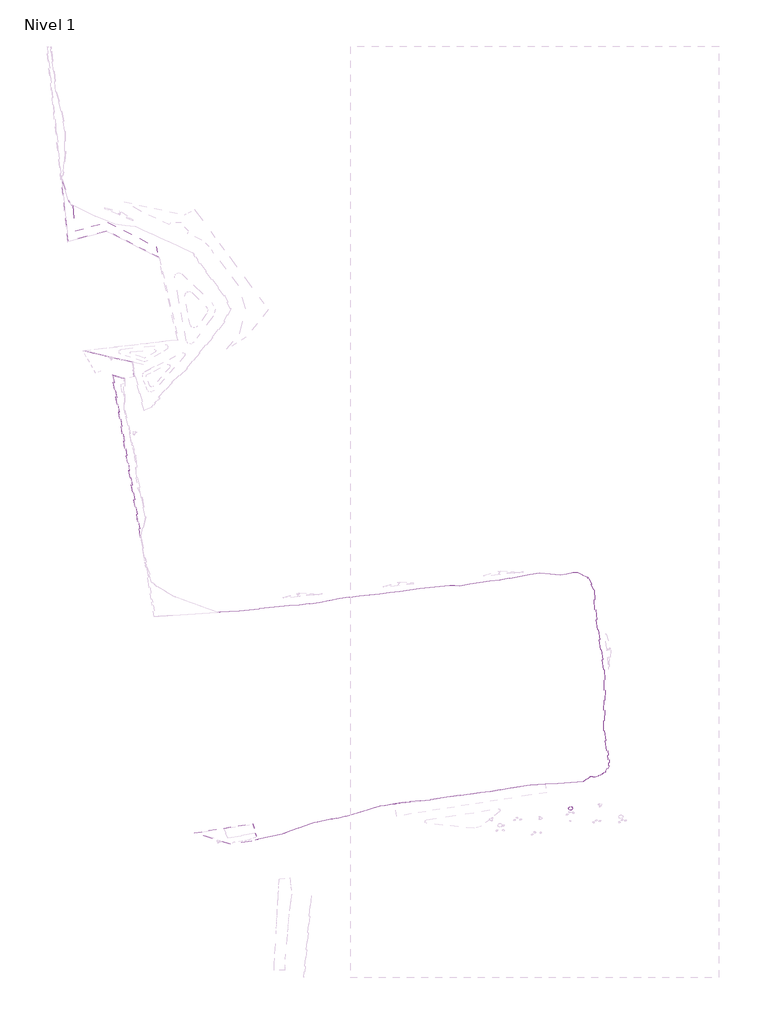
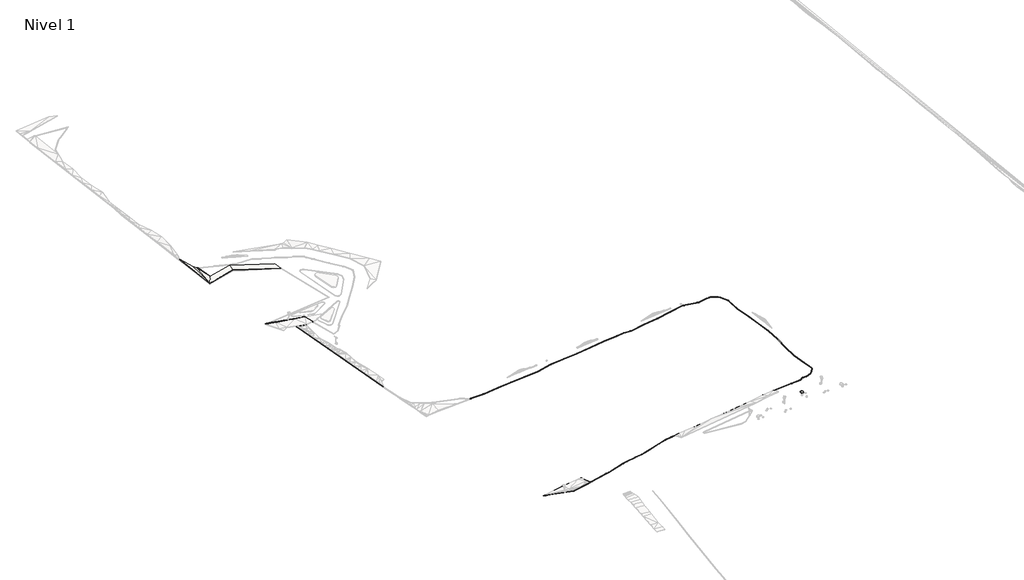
# One storey, part 4 of 45: 6 slabs.
"""IFC4 building model written with IfcOpenShell, lengths in millimetres."""

from ifc_helpers import new_model, si_unit, point, frame, frame_2d, origin, place, context, project, spatial, circle_curve, trimmed, segment, composite_curve, outline, extrude, faceted_brep, element, save
from ifc_brep_helpers import plane_surface, spline_surface, advanced_brep

model = new_model("IFC4")

# Units and contexts
model_context = context("Model", 3, world=origin())
ifc_project = project(units=[si_unit("LENGTHUNIT", "METRE", prefix="MILLI")], contexts=[model_context])

# Site, building, storey
site = spatial("IfcSite", under=ifc_project)
building = spatial("IfcBuilding", under=site)
storey = spatial("IfcBuildingStorey", under=building, Name="Nivel 1", Elevation=0.0)

# Slabs
placement = place(None, origin())
element("IfcSlab", 1, ObjectType="Tierra de Chacra (50cm)", at=placement, inside=storey, context=model_context, shape_type="Brep", body=[
    faceted_brep([(-246888.5866031, -301346.6271239, 2500.0), (-246888.5866031, -301346.6271239, 3000.0), (-272592.9362522, -288335.6224088, 3000.0), (-272592.9362522, -288335.6224088, 2500.0), (-291569.8850436, -293416.2243786, 3000.0), (-291569.8850436, -293416.2243786, 2500.0), (-294891.1329312, -262791.0925905, 3000.0), (-294891.1329312, -262791.0925905, 2500.0), (-291491.3566625, -273118.4389996, 2770.69561), (-291491.3566625, -273118.4389996, 2270.69561), (-290159.2414777, -275283.0651658, 2756.4355659), (-290159.2414777, -275283.0651658, 2256.4355659), (-289423.7156436, -275642.0907, 2880.0), (-289423.7156436, -275642.0907, 2380.0), (-288069.300455, -288131.1144209, 3500.0), (-288069.300455, -288131.1144209, 3000.0), (-272128.4213788, -283863.3439535, 3500.0), (-272128.4213788, -283863.3439535, 3000.0), (-248131.330042, -296010.1701835, 3500.0), (-248131.330042, -296010.1701835, 3000.0)], [[[0, 1, 2, 3]], [[3, 2, 4, 5]], [[5, 4, 6, 7]], [[7, 6, 8, 9]], [[9, 8, 10, 11]], [[11, 10, 12, 13]], [[13, 12, 14, 15]], [[15, 14, 16, 17]], [[17, 16, 18, 19]], [[19, 18, 1, 0]], [[18, 16, 2, 1]], [[19, 0, 3, 17]], [[8, 6, 4]], [[10, 8, 4]], [[9, 5, 7]], [[11, 5, 9]], [[14, 12, 10]], [[15, 11, 13]], [[14, 10, 4]], [[15, 5, 11]], [[16, 14, 4, 2]], [[17, 3, 5, 15]]]),
])
element("IfcSlab", 2, ObjectType="Tierra de Chacra (50cm)", at=placement, inside=storey, context=model_context, shape_type="SweptSolid", body=[
    extrude(outline(composite_curve([segment(trimmed(circle_curve(frame_2d((-42885.9275972, -574106.8982234)), 950.0), [point((-43835.9275972, -574106.8982234))], [point((-41935.9275972, -574106.8982234))], False, "CARTESIAN"), True, "CONTINUOUS"), segment(trimmed(circle_curve(frame_2d((-42885.9275972, -574106.8982234)), 950.0), [point((-41935.9275972, -574106.8982234))], [point((-43835.9275972, -574106.8982234))], False, "CARTESIAN"), True, "CONTINUOUS")], self_intersect=False)), frame((0.0, 0.0, 5900.0), z_axis=(0.0, 0.0, 1.0), x_axis=(1.0, 0.0, 0.0)), (0.0, 0.0, 1.0), 500.0),
])
element("IfcSlab", 3, ObjectType="Alcorque", at=placement, inside=storey, context=model_context, shape_type="SweptSolid", body=[
    extrude(outline(composite_curve([segment(trimmed(circle_curve(frame_2d((-42885.9275972, -574106.8982234)), 1050.0), [point((-41835.9275972, -574106.8982234))], [point((-43935.9275972, -574106.8982234))], False, "CARTESIAN"), True, "CONTINUOUS"), segment(trimmed(circle_curve(frame_2d((-42885.9275972, -574106.8982234)), 1050.0), [point((-43935.9275972, -574106.8982234))], [point((-41835.9275972, -574106.8982234))], False, "CARTESIAN"), True, "CONTINUOUS")], self_intersect=False), holes=[composite_curve([segment(trimmed(circle_curve(frame_2d((-42885.9275972, -574106.8982234)), 950.0), [point((-43835.9275972, -574106.8982234))], [point((-41935.9275972, -574106.8982234))], True, "CARTESIAN"), True, "CONTINUOUS"), segment(trimmed(circle_curve(frame_2d((-42885.9275972, -574106.8982234)), 950.0), [point((-41935.9275972, -574106.8982234))], [point((-43835.9275972, -574106.8982234))], True, "CARTESIAN"), True, "CONTINUOUS")], self_intersect=False)]), frame((0.0, 0.0, 6300.0), z_axis=(0.0, 0.0, 1.0), x_axis=(1.0, 0.0, 0.0)), (0.0, 0.0, 1.0), 150.0),
])
element("IfcSlab", 4, ObjectType="Bordillo", at=placement, inside=storey, context=model_context, shape_type="AdvancedBrep", body=[
    advanced_brep(
    [(-260008.9471493, -353050.100909, 3100.0), (-260008.9471493, -353050.100909, 3500.0), (-258771.3549494, -360447.2872126, 4078.4), (-258771.3549494, -360447.2872126, 3678.4), (-258919.2986758, -360472.0390568, 4078.4), (-258919.2986758, -360472.0390568, 3678.4), (-260140.3450948, -353173.7481946, 3500.0), (-260140.3450948, -353173.7481946, 3100.0), (-264138.4515968, -352252.2382321, 3500.0), (-264138.4515968, -352252.2382321, 3100.0), (-265363.9430832, -352226.3334649, 3500.0), (-265363.9430832, -352226.3334649, 3100.0), (-267410.290976, -351754.6776751, 3500.0), (-267410.290976, -351754.6776751, 3100.0), (-268523.483267, -351241.547204, 3500.0), (-268523.483267, -351241.547204, 3100.0), (-269748.9749714, -351215.6424778, 3500.0), (-269748.9749714, -351215.6424778, 3100.0), (-270996.2728768, -350928.1570534, 3500.0), (-270996.2728768, -350928.1570534, 3100.0), (-272109.6624657, -350414.9809641, 3500.0), (-272109.6624657, -350414.9809641, 3100.0), (-284078.9798276, -347656.2137356, 3320.0), (-284078.9798276, -347656.2137356, 2920.0), (-284369.7433372, -347435.263894, 3320.0), (-284369.7433372, -347435.263894, 2920.0), (-272075.972764, -350268.8132384, 3500.0), (-270906.4336443, -350538.3763303, 3500.0), (-269659.1357445, -350825.8617787, 3500.0), (-268489.7935653, -351095.3794784, 3500.0), (-267320.451775, -351364.8970884, 3500.0), (-265274.1038761, -351836.5528521, 3500.0), (-264104.761895, -352106.0705061, 3500.0), (-264104.761895, -352106.0705061, 3100.0), (-265274.1038761, -351836.5528521, 3100.0), (-267320.451775, -351364.8970884, 3100.0), (-268489.7935653, -351095.3794784, 3100.0), (-269659.1357445, -350825.8617787, 3100.0), (-270906.4336443, -350538.3763303, 3100.0), (-272075.972764, -350268.8132384, 3100.0)],
    [
        (0, 1),
        (1, 2),
        (2, 3),
        (3, 0),
        (2, 4),
        (4, 5),
        (5, 3),
        (4, 6),
        (6, 7),
        (7, 5),
        (6, 8),
        (8, 9),
        (9, 7),
        (8, 10),
        (10, 11),
        (11, 9),
        (10, 12),
        (12, 13),
        (13, 11),
        (12, 14),
        (14, 15),
        (15, 13),
        (14, 16),
        (16, 17),
        (17, 15),
        (16, 18),
        (18, 19),
        (19, 17),
        (18, 20),
        (20, 21),
        (21, 19),
        (20, 22),
        (22, 23),
        (23, 21),
        (22, 24),
        (24, 25),
        (25, 23),
        (24, 26),
        (26, 27),
        (27, 28),
        (28, 29),
        (29, 30),
        (30, 31),
        (31, 32),
        (32, 1),
        (0, 33),
        (33, 34),
        (34, 35),
        (35, 36),
        (36, 37),
        (37, 38),
        (38, 39),
        (39, 25),
        (20, 26),
        (39, 21),
        (18, 27),
        (2, 6),
        (1, 6),
        (12, 30),
        (29, 14),
        (38, 19),
        (7, 3),
        (7, 0),
        (15, 36),
        (35, 13),
        (32, 8),
        (9, 33),
        (10, 31),
        (34, 11),
        (28, 16),
        (17, 37),
    ],
    [
        plane_surface(frame((-260008.9471493, -353050.100909, 4600.0), z_axis=(0.9862915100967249, 0.1650122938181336, 0.0), x_axis=(0.0, 0.0, 1.0))),
        plane_surface(frame((-258771.3549494, -360447.2872126, 4600.0), z_axis=(0.1650122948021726, -0.9862915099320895, 0.0), x_axis=(0.0, 0.0, 1.0))),
        plane_surface(frame((-258919.2986758, -360472.0390568, 4600.0), z_axis=(-0.9862915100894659, -0.16501229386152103, 0.0), x_axis=(0.0, 0.0, 1.0))),
        plane_surface(frame((-260140.3450948, -353173.7481946, 4600.0), z_axis=(-0.2245980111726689, -0.9744515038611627, 0.0), x_axis=(0.0, 0.0, 1.0))),
        plane_surface(frame((-264138.4515968, -352252.2382321, 4600.0), z_axis=(-0.021133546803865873, -0.9997766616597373, 0.0), x_axis=(0.0, 0.0, 1.0))),
        plane_surface(frame((-265363.9430832, -352226.3334649, 4600.0), z_axis=(-0.22459802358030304, -0.9744515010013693, 0.0), x_axis=(0.0, 0.0, 1.0))),
        plane_surface(frame((-267410.290976, -351754.6776751, 4600.0), z_axis=(-0.4186205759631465, -0.9081612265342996, 0.0), x_axis=(0.0, 0.0, 1.0))),
        plane_surface(frame((-268523.483267, -351241.547204, 4600.0), z_axis=(-0.02113350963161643, -0.9997766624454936, 0.0), x_axis=(0.0, 0.0, 1.0))),
        plane_surface(frame((-269748.9749714, -351215.6424778, 4600.0), z_axis=(-0.22459799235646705, -0.9744515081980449, 0.0), x_axis=(0.0, 0.0, 1.0))),
        plane_surface(frame((-270996.2728768, -350928.1570534, 4600.0), z_axis=(-0.4185900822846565, -0.908175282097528, 0.0), x_axis=(0.0, 0.0, 1.0))),
        plane_surface(frame((-272109.6624657, -350414.9809641, 4600.0), z_axis=(-0.224598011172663, -0.9744515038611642, 0.0), x_axis=(0.0, 0.0, 1.0))),
        plane_surface(frame((-284078.9798276, -347656.2137356, 4600.0), z_axis=(-0.6050304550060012, -0.7962023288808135, 0.0), x_axis=(0.0, 0.0, 1.0))),
        plane_surface(frame((-284369.7433372, -347435.263894, 4600.0), z_axis=(0.22459801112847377, 0.9744515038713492, 0.0), x_axis=(0.0, 0.0, 1.0))),
        spline_surface(1, 1, [[(-284078.9798276, -347656.2137356, 3320.0), (-284369.7433372, -347435.263894, 3320.0)], [(-272109.6624657, -350414.9809641, 3500.0), (-272075.972764, -350268.8132384, 3500.0)]], [2, 2], [2, 2], [0.0, 1.0], [0.0, 1.0]),
        spline_surface(1, 1, [[(-284078.9798276, -347656.2137356, 2920.0), (-272109.6624657, -350414.9809641, 3100.0)], [(-284369.7433372, -347435.263894, 2920.0), (-272075.972764, -350268.8132384, 3100.0)]], [2, 2], [2, 2], [0.0, 1.0], [0.0, 1.0]),
        plane_surface(frame((-271522.0854377, -350537.5818965, 3500.0), z_axis=(0.0, 0.0, 1.0), x_axis=(0.908175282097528, -0.4185900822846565, 0.0))),
        plane_surface(frame((-259276.9995733, -358031.0248213, 3885.6), z_axis=(-0.012858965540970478, 0.07685905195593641, 0.9969590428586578), x_axis=(0.164510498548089, -0.9832922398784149, 0.07792731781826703))),
        plane_surface(frame((-259640.2157312, -355557.0454387, 3692.8), z_axis=(-0.06329942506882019, 0.06726726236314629, 0.9957250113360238), x_axis=(0.1844051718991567, -0.9797573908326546, 0.07791140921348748))),
        plane_surface(frame((-267936.0048958, -351364.1253615, 3500.0), z_axis=(0.0, 0.0, 1.0), x_axis=(0.9081612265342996, -0.4186205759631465, 0.0))),
        plane_surface(frame((-271522.0854377, -350537.5818965, 3100.0), z_axis=(0.0, 0.0, -1.0), x_axis=(0.908175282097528, -0.4185900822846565, 0.0))),
        plane_surface(frame((-259276.9995733, -358031.0248213, 3485.6), z_axis=(0.012858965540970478, -0.07685905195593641, -0.9969590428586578), x_axis=(0.164510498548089, -0.9832922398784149, 0.07792731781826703))),
        plane_surface(frame((-259640.2157312, -355557.0454387, 3292.8), z_axis=(0.06329942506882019, -0.06726726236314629, -0.9957250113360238), x_axis=(0.1844051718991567, -0.9797573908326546, 0.07791140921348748))),
        plane_surface(frame((-267936.0048958, -351364.1253615, 3100.0), z_axis=(0.0, 0.0, -1.0), x_axis=(0.9081612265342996, -0.4186205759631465, 0.0))),
        plane_surface(frame((-262098.126434, -352645.5394605, 3500.0), z_axis=(0.0, 0.0, 1.0), x_axis=(0.9744515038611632, -0.22459801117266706, 0.0))),
        plane_surface(frame((-262098.126434, -352645.5394605, 3100.0), z_axis=(0.0, 0.0, -1.0), x_axis=(0.9744515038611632, -0.22459801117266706, 0.0))),
        plane_surface(frame((-266342.1974276, -351795.6152701, 3500.0), z_axis=(0.0, 0.0, 1.0), x_axis=(0.9744515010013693, -0.22459802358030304, 0.0))),
        plane_surface(frame((-266342.1974276, -351795.6152701, 3100.0), z_axis=(0.0, 0.0, -1.0), x_axis=(0.9744515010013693, -0.22459802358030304, 0.0))),
        plane_surface(frame((-264720.3151128, -352105.2987638, 3500.0), z_axis=(0.0, 0.0, 1.0), x_axis=(0.9997766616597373, -0.021133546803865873, 0.0))),
        plane_surface(frame((-264720.3151128, -352105.2987638, 3100.0), z_axis=(0.0, 0.0, -1.0), x_axis=(0.9997766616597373, -0.021133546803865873, 0.0))),
        plane_surface(frame((-269105.3468871, -351094.6077347, 3500.0), z_axis=(0.0, 0.0, 1.0000000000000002), x_axis=(0.9997766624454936, -0.02113350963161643, 0.0))),
        plane_surface(frame((-270327.7043093, -350877.00941, 3500.0), z_axis=(0.0, 0.0, 1.0), x_axis=(0.9744515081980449, -0.22459799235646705, 0.0))),
        plane_surface(frame((-269105.3468871, -351094.6077347, 3100.0), z_axis=(0.0, 0.0, -1.0000000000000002), x_axis=(0.9997766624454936, -0.02113350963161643, 0.0))),
        plane_surface(frame((-270327.7043093, -350877.00941, 3100.0), z_axis=(0.0, 0.0, -1.0), x_axis=(0.9744515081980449, -0.22459799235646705, 0.0))),
    ],
    [
        (0, [[1, 2, 3, 4]]),
        (1, [[-3, 5, 6, 7]]),
        (2, [[-6, 8, 9, 10]]),
        (3, [[-9, 11, 12, 13]]),
        (4, [[-12, 14, 15, 16]]),
        (5, [[-15, 17, 18, 19]]),
        (6, [[-18, 20, 21, 22]]),
        (7, [[-21, 23, 24, 25]]),
        (8, [[-24, 26, 27, 28]]),
        (9, [[-27, 29, 30, 31]]),
        (10, [[-30, 32, 33, 34]]),
        (11, [[-33, 35, 36, 37]]),
        (12, [[-36, 38, 39, 40, 41, 42, 43, 44, 45, -1, 46, 47, 48, 49, 50, 51, 52, 53]]),
        (13, [[-35, -32, 54, -38]]),
        (14, [[-53, 55, -34, -37]]),
        (15, [[-29, 56, -39, -54]]),
        (16, [[-8, -5, 57]]),
        (17, [[-57, -2, 58]]),
        (18, [[-20, 59, -42, 60]]),
        (19, [[-55, -52, 61, -31]]),
        (20, [[62, -7, -10]]),
        (21, [[63, -4, -62]]),
        (22, [[64, -49, 65, -22]]),
        (23, [[-11, -58, -45, 66]]),
        (24, [[67, -46, -63, -13]]),
        (25, [[-17, 68, -43, -59]]),
        (26, [[-65, -48, 69, -19]]),
        (27, [[-14, -66, -44, -68]]),
        (28, [[-69, -47, -67, -16]]),
        (29, [[-23, -60, -41, 70]]),
        (30, [[-26, -70, -40, -56]]),
        (31, [[71, -50, -64, -25]]),
        (32, [[-61, -51, -71, -28]]),
    ],
),
])
element("IfcSlab", 5, ObjectType="Tierra de Chacra (20cm)", at=placement, inside=storey, context=model_context, shape_type="Brep", body=[
    faceted_brep([(-229218.121428, -586191.4821241, 2657.0), (-229218.121428, -586191.4821241, 2857.0), (-214652.6300763, -583893.161036, 3046.5), (-214652.6300763, -583893.161036, 2846.5), (-200235.4500916, -581618.2423265, 3130.4), (-200235.4500916, -581618.2423265, 2930.4), (-200458.3355056, -581957.1237037, 2930.4), (-200458.3355056, -581957.1237037, 3130.4), (-214605.8709473, -584189.4946046, 3046.5), (-214605.8709473, -584189.4946046, 2846.5), (-227929.9128446, -586291.9246381, 2857.0), (-227929.9128446, -586291.9246381, 2657.0), (-211275.227181, -591665.9897039, 3450.9), (-211275.227181, -591665.9897039, 3250.9), (-200863.8673816, -590021.6369254, 3954.1), (-200863.8673816, -590021.6369254, 3754.1), (-198527.9395228, -589493.7963722, 3980.8), (-198527.9395228, -589493.7963722, 3780.8), (-200766.5944592, -590307.2202946, 3750.0), (-200766.5944592, -590307.2202946, 3950.0), (-211299.1422545, -591973.5041907, 3424.4), (-211299.1422545, -591973.5041907, 3224.4), (-198996.3364109, -586456.0032283, 3300.0), (-198996.3364109, -586456.0032283, 3100.0), (-198235.1983045, -589427.6467742, 3980.8), (-198235.1983045, -589427.6467742, 3780.8), (-197516.3315753, -589265.2072492, 3988.0), (-185676.072149, -586589.7097751, 4124.7), (-185676.072149, -586589.7097751, 3924.7), (-197516.3315753, -589265.2072492, 3788.0), (-183868.5880062, -585932.4818483, 4064.3), (-171398.9430117, -581398.3347791, 3316.3), (-171398.9430117, -581398.3347791, 3116.3), (-183868.5880062, -585932.4818483, 3864.3), (-168241.0843083, -580651.3367227, 3257.6), (-168241.0843083, -580651.3367227, 3057.6), (-161573.3420186, -579283.1930537, 3206.6), (-161573.3420186, -579283.1930537, 3006.6), (-160578.1547199, -579139.327079, 3211.2), (-160578.1547199, -579139.327079, 3011.2), (-156637.8411618, -578555.742054, 3223.5), (-156637.8411618, -578555.742054, 3023.5), (-151814.1972842, -577194.7833059, 3275.0), (-151814.1972842, -577194.7833059, 3075.0), (-142164.5076894, -574184.5163175, 3285.2), (-142164.5076894, -574184.5163175, 3085.2), (-137292.2435242, -572844.9711437, 3348.2), (-137292.2435242, -572844.9711437, 3148.2), (-132336.2681569, -572054.7247203, 3345.5), (-132336.2681569, -572054.7247203, 3145.5), (-129704.6994017, -571671.6139289, 3356.1), (-129704.6994017, -571671.6139289, 3156.1), (-128084.3650232, -571369.6760276, 3340.8), (-128084.3650232, -571369.6760276, 3140.8), (-126470.8429122, -571124.0869214, 3343.8), (-126470.8429122, -571124.0869214, 3143.8), (-122413.5742393, -570689.7742405, 3411.4), (-122413.5742393, -570689.7742405, 3211.4), (-112457.6262209, -569675.0413159, 3594.7), (-112457.6262209, -569675.0413159, 3394.7), (-102585.1841059, -568109.5041191, 3592.2), (-102585.1841059, -568109.5041191, 3392.2), (-92660.5709293, -566816.2656833, 3681.9), (-92660.5709293, -566816.2656833, 3481.9), (-82738.8928361, -565572.3979817, 3787.9), (-82738.8928361, -565572.3979817, 3587.9), (-72882.5289304, -563903.9304181, 3750.6), (-72882.5289304, -563903.9304181, 3550.6), (-62981.009365, -562390.9178589, 4167.3), (-62981.009365, -562390.9178589, 3967.3), (-55444.2405724, -561946.6373942, 4411.8), (-55444.2405724, -561946.6373942, 4211.8), (-42907.7925691, -561207.6338386, 4819.7), (-42907.7925691, -561207.6338386, 4619.7), (-36382.6926821, -560753.0907861, 4700.0), (-36382.6926821, -560753.0907861, 4500.0), (-33338.8281006, -558185.6130775, 3929.2), (-33338.8281006, -558185.6130775, 3729.2), (-30710.9108972, -558404.1715033, 4133.3), (-30710.9108972, -558404.1715033, 3933.3), (-29126.6703597, -557801.4416018, 4077.1), (-29126.6703597, -557801.4416018, 3877.1), (-27219.9952269, -556938.5341704, 4142.3), (-27219.9952269, -556938.5341704, 3942.3), (-26843.935735, -556682.2079061, 4156.1), (-26843.935735, -556682.2079061, 3956.1), (-25609.1217637, -555671.7607658, 4227.4), (-25609.1217637, -555671.7607658, 4027.4), (-23965.6046066, -552971.9372464, 4327.6), (-23965.6046066, -552971.9372464, 4127.6), (-24158.5064391, -550051.0512811, 4183.6), (-24158.5064391, -550051.0512811, 3983.6), (-24894.5649611, -545626.0986544, 4088.8), (-24894.5649611, -545626.0986544, 3888.8), (-26467.6007311, -535709.6606918, 3910.8), (-26467.6007311, -535709.6606918, 3710.8), (-26374.3053196, -525618.1832243, 3789.8), (-26374.3053196, -525618.1832243, 3589.8), (-26116.1110561, -515545.0632364, 3724.1), (-26116.1110561, -515545.0632364, 3524.1), (-26563.725579, -505563.4298464, 3921.4), (-26563.725579, -505563.4298464, 3721.4), (-28023.2807926, -495676.4183495, 3779.3), (-28023.2807926, -495676.4183495, 3579.3), (-29461.7812964, -485771.1988393, 3645.0), (-29461.7812964, -485771.1988393, 3445.0), (-30857.8545048, -475849.7350324, 3525.4), (-30857.8545048, -475849.7350324, 3325.4), (-31442.1225256, -465971.9764008, 3671.7), (-31442.1225256, -465971.9764008, 3471.7), (-34100.4567909, -460506.1094997, 3668.3), (-34100.4567909, -460506.1094997, 3468.3), (-34777.8535726, -459788.9708675, 3696.8), (-34777.8535726, -459788.9708675, 3496.8), (-39418.6898093, -457530.2993413, 3783.9), (-39418.6898093, -457530.2993413, 3583.9), (-41697.1205517, -457528.545037, 3775.6), (-41697.1205517, -457528.545037, 3575.6), (-47965.326769, -458772.3129419, 3591.5), (-47965.326769, -458772.3129419, 3391.5), (-58151.1142412, -457645.5791693, 4334.6), (-58151.1142412, -457645.5791693, 4134.6), (-67971.2310009, -459432.9924149, 4098.2), (-67971.2310009, -459432.9924149, 3898.2), (-77845.2709582, -461220.8875304, 3864.5), (-77845.2709582, -461220.8875304, 3664.5), (-87782.2749338, -462346.855947, 3852.3), (-87782.2749338, -462346.855947, 3652.3), (-97672.8101084, -464101.9801199, 3630.5), (-97672.8101084, -464101.9801199, 3430.5), (-102733.26957, -463903.0982767, 3679.8), (-102733.26957, -463903.0982767, 3479.8), (-107679.9389932, -464488.3521705, 3615.5), (-107679.9389932, -464488.3521705, 3415.5), (-117640.455037, -465358.6785729, 3688.8), (-117640.455037, -465358.6785729, 3488.8), (-127535.4096257, -466794.8872125, 3572.2), (-127535.4096257, -466794.8872125, 3372.2), (-137452.3955201, -468161.7134086, 3479.6), (-137452.3955201, -468161.7134086, 3279.6), (-147408.042085, -469143.696718, 3515.8), (-147408.042085, -469143.696718, 3315.8), (-157325.3237929, -470284.3012748, 3498.1), (-157325.3237929, -470284.3012748, 3298.1), (-167151.369299, -472427.9625842, 3300.0), (-167151.369299, -472427.9625842, 3100.0), (-177114.4191296, -473498.484386, 3300.0), (-177114.4191296, -473498.484386, 3100.0), (-187086.6110566, -474288.601631, 3203.4), (-187086.6110566, -474288.601631, 3003.4), (-197015.57189, -475428.5428347, 3203.4), (-197015.57189, -475428.5428347, 3003.4), (-206954.7075859, -476613.9818928, 3203.4), (-206954.7075859, -476613.9818928, 3003.4), (-216636.7882315, -477132.4321819, 3383.4), (-216636.7882315, -477132.4321819, 3183.4), (-217070.2944768, -477206.5193271, 3372.2), (-217070.2944768, -477206.5193271, 3172.2), (-217120.8323867, -476910.8067645, 3372.1566546), (-217120.8323867, -476910.8067645, 3172.1566546), (-216670.1895996, -476833.7909476, 3383.4145769), (-216670.1895996, -476833.7909476, 3183.4145769), (-206980.5202077, -476314.9343008, 3203.4107184), (-206980.5202077, -476314.9343008, 3003.4107184), (-197050.4456943, -475130.5759686, 3203.4), (-197050.4456943, -475130.5759686, 3003.4), (-187115.5767951, -473989.9564615, 3203.4), (-187115.5767951, -473989.9564615, 3003.4), (-177142.2973991, -473199.7530541, 3300.0), (-177142.2973991, -473199.7530541, 3100.0), (-167199.506208, -472131.408027, 3300.0), (-167199.506208, -472131.408027, 3100.0), (-157374.558443, -469987.986202, 3498.0959932), (-157374.558443, -469987.986202, 3298.0959932), (-147439.906885, -468845.3839073, 3515.830802), (-147439.906885, -468845.3839073, 3315.830802), (-137487.6129952, -467863.7312917, 3479.6174341), (-137487.6129952, -467863.7312917, 3279.6174341), (-127577.4366307, -466497.8436312, 3572.2416461), (-127577.4366307, -466497.8436312, 3372.2416461), (-117675.0860964, -465060.5615029, 3688.8469609), (-117675.0860964, -465060.5615029, 3488.8469609), (-107710.6270646, -464189.8905715, 3615.479068), (-107710.6270646, -464189.8905715, 3415.479068), (-102745.0755775, -463602.4026895, 3679.798421), (-102745.0755775, -463602.4026895, 3479.798421), (-97693.3646787, -463800.9407042, 3630.4508134), (-97693.3646787, -463800.9407042, 3430.4508134), (-87825.4147524, -462049.8243949, 3852.3338273), (-87825.4147524, -462049.8243949, 3652.3338273), (-77888.9333977, -460923.9151968, 3864.4598296), (-77888.9333977, -460923.9151968, 3664.4598296), (-68024.8179619, -459137.817117, 4098.1534742), (-68024.8179619, -459137.817117, 3898.1534742), (-58161.7045319, -457342.5778119, 4334.6387408), (-58161.7045319, -457342.5778119, 4134.6387408), (-47978.331332, -458469.044522, 3591.5205565), (-47978.331332, -458469.044522, 3391.5205565), (-41726.4825581, -457228.5223404, 3775.5526288), (-41726.4825581, -457228.5223404, 3575.5526288), (-39349.4524792, -457230.3525625, 3783.9114131), (-39349.4524792, -457230.3525625, 3583.9114131), (-34597.351171, -459543.1762362, 3696.7636639), (-34597.351171, -459543.1762362, 3496.7636639), (-33850.786955, -460333.5402521, 3668.3116749), (-33850.786955, -460333.5402521, 3468.3116749), (-31138.7178261, -465909.8927366, 3676.4089141), (-31138.7178261, -465909.8927366, 3476.4089141), (-31136.7633017, -466053.7158406, 3671.7286548), (-31136.7633017, -466053.7158406, 3471.7286548), (-30559.093206, -475819.9285573, 3525.4388731), (-30559.093206, -475819.9285573, 3325.4388731), (-29164.8003642, -485728.7398453, 3645.0358785), (-29164.8003642, -485728.7398453, 3445.0358785), (-27726.4458142, -495632.9543472, 3779.2811908), (-27726.4458142, -495632.9543472, 3579.2811908), (-26264.7111098, -505534.7296918, 3921.4081533), (-26264.7111098, -505534.7296918, 3721.4081533), (-25815.9387059, -515542.1833849, 3724.1240137), (-25815.9387059, -515542.1833849, 3524.1240137), (-26074.3408559, -525623.4137999, 3789.7895391), (-26074.3408559, -525623.4137999, 3589.7895391), (-26167.3820446, -535687.3927588, 3910.8130453), (-26167.3820446, -535687.3927588, 3710.8130453), (-24598.4462789, -545577.9842405, 4088.8453991), (-24598.4462789, -545577.9842405, 3888.8453991), (-23860.1368186, -550016.4688012, 4183.6446445), (-23860.1368186, -550016.4688012, 3983.6446445), (-23660.0026197, -553046.8660003, 4327.5799751), (-23660.0026197, -553046.8660003, 4127.5799751), (-25379.4987744, -555871.5010459, 4227.3829087), (-25379.4987744, -555871.5010459, 4027.3829087), (-26664.11478, -556922.7011452, 4156.1429782), (-26664.11478, -556922.7011452, 3956.1429782), (-27072.5613765, -557201.1028143, 4142.2587456), (-27072.5613765, -557201.1028143, 3942.2587456), (-29011.3765113, -558078.5559049, 4077.1111894), (-29011.3765113, -558078.5559049, 3877.1111894), (-30667.8962641, -558708.7846889, 4133.3366091), (-30667.8962641, -558708.7846889, 3933.3366091), (-33240.1567177, -558494.8551195, 3929.2373652), (-33240.1567177, -558494.8551195, 3729.2373652), (-36264.1351379, -561045.5589952, 4747.5716488), (-36264.1351379, -561045.5589952, 4547.5716488), (-42888.5412397, -561507.0197886, 4819.7260649), (-42888.5412397, -561507.0197886, 4619.7260649), (-55426.5866985, -562246.1175117, 4411.7763537), (-55426.5866985, -562246.1175117, 4211.7763537), (-62949.4567009, -562689.5786649, 4167.2590994), (-62949.4567009, -562689.5786649, 3967.2590994), (-72834.8323781, -564200.1243396, 3750.6321283), (-72834.8323781, -564200.1243396, 3550.6321283), (-82695.1778568, -565869.2658967, 3787.9016458), (-82695.1778568, -565869.2658967, 3587.9016458), (-92622.5293983, -567113.844871, 3681.9397493), (-92622.5293983, -567113.844871, 3481.9397493), (-102542.3008924, -568406.4524057, 3592.1662442), (-102542.3008924, -568406.4524057, 3392.1662442), (-112418.8937204, -569972.647808, 3594.7180365), (-112418.8937204, -569972.647808, 3394.7180365), (-122382.3988679, -570988.1509723, 3411.4313259), (-122382.3988679, -570988.1509723, 3211.4313259), (-126432.2872098, -571421.6736214, 3343.7619513), (-126432.2872098, -571421.6736214, 3143.7619513), (-128034.3017331, -571665.5111941, 3340.8165228), (-128034.3017331, -571665.5111941, 3140.8165228), (-129655.5920526, -571967.6272282, 3356.0567702), (-129655.5920526, -571967.6272282, 3156.0567702), (-129816.9388295, -571991.1165219, 3355.4141695), (-129816.9388295, -571991.1165219, 3155.4141695), (-132291.0368738, -572351.3023077, 3345.4743313), (-132291.0368738, -572351.3023077, 3145.4743313), (-137228.6667238, -573138.6234785, 3348.1735313), (-137228.6667238, -573138.6234785, 3148.1735313), (-142080.0486073, -574472.4274284, 3285.2), (-142080.0486073, -574472.4274284, 3085.2), (-151728.7798134, -577482.3954428, 3275.0), (-151728.7798134, -577482.3954428, 3075.0), (-156574.8762367, -578849.689026, 3223.5), (-156574.8762367, -578849.689026, 3023.5), (-160534.717208, -579436.1661827, 3211.2), (-160534.717208, -579436.1661827, 3011.2), (-161521.686081, -579578.8440878, 3206.6), (-161521.686081, -579578.8440878, 3006.6), (-168176.3898616, -580944.3124054, 3257.6), (-168176.3898616, -580944.3124054, 3057.6), (-171312.8627776, -581686.2516092, 3316.3), (-171312.8627776, -581686.2516092, 3116.3), (-183759.6925101, -586212.1027122, 4064.3), (-185591.4136934, -586878.1435849, 4124.7), (-185591.4136934, -586878.1435849, 3924.7), (-183759.6925101, -586212.1027122, 3864.3), (-197450.208859, -589557.829508, 3988.0), (-197450.208859, -589557.829508, 3788.0), (-199286.9548967, -586530.4404212, 3300.0), (-199286.9548967, -586530.4404212, 3100.0)], [[[0, 1, 2, 3]], [[3, 2, 4, 5]], [[6, 7, 8, 9]], [[9, 8, 10, 11]], [[11, 10, 12, 13]], [[13, 12, 14, 15]], [[15, 14, 16, 17]], [[18, 19, 20, 21]], [[21, 20, 1, 0]], [[5, 4, 22, 23]], [[23, 22, 24, 25]], [[25, 24, 26, 27, 28, 29]], [[28, 27, 30, 31, 32, 33]], [[32, 31, 34, 35]], [[35, 34, 36, 37]], [[37, 36, 38, 39]], [[39, 38, 40, 41]], [[41, 40, 42, 43]], [[43, 42, 44, 45]], [[45, 44, 46, 47]], [[47, 46, 48, 49]], [[49, 48, 50, 51]], [[51, 50, 52, 53]], [[53, 52, 54, 55]], [[55, 54, 56, 57]], [[57, 56, 58, 59]], [[59, 58, 60, 61]], [[61, 60, 62, 63]], [[63, 62, 64, 65]], [[65, 64, 66, 67]], [[67, 66, 68, 69]], [[69, 68, 70, 71]], [[71, 70, 72, 73]], [[73, 72, 74, 75]], [[75, 74, 76, 77]], [[77, 76, 78, 79]], [[79, 78, 80, 81]], [[81, 80, 82, 83]], [[83, 82, 84, 85]], [[85, 84, 86, 87]], [[87, 86, 88, 89]], [[89, 88, 90, 91]], [[91, 90, 92, 93]], [[93, 92, 94, 95]], [[95, 94, 96, 97]], [[97, 96, 98, 99]], [[99, 98, 100, 101]], [[101, 100, 102, 103]], [[103, 102, 104, 105]], [[105, 104, 106, 107]], [[107, 106, 108, 109]], [[109, 108, 110, 111]], [[111, 110, 112, 113]], [[113, 112, 114, 115]], [[115, 114, 116, 117]], [[117, 116, 118, 119]], [[119, 118, 120, 121]], [[121, 120, 122, 123]], [[123, 122, 124, 125]], [[125, 124, 126, 127]], [[127, 126, 128, 129]], [[129, 128, 130, 131]], [[131, 130, 132, 133]], [[133, 132, 134, 135]], [[135, 134, 136, 137]], [[137, 136, 138, 139]], [[139, 138, 140, 141]], [[141, 140, 142, 143]], [[143, 142, 144, 145]], [[145, 144, 146, 147]], [[147, 146, 148, 149]], [[149, 148, 150, 151]], [[151, 150, 152, 153]], [[153, 152, 154, 155]], [[155, 154, 156, 157]], [[157, 156, 158, 159]], [[159, 158, 160, 161]], [[161, 160, 162, 163]], [[163, 162, 164, 165]], [[165, 164, 166, 167]], [[167, 166, 168, 169]], [[169, 168, 170, 171]], [[171, 170, 172, 173]], [[173, 172, 174, 175]], [[175, 174, 176, 177]], [[177, 176, 178, 179]], [[179, 178, 180, 181]], [[181, 180, 182, 183]], [[183, 182, 184, 185]], [[185, 184, 186, 187]], [[187, 186, 188, 189]], [[189, 188, 190, 191]], [[191, 190, 192, 193]], [[193, 192, 194, 195]], [[195, 194, 196, 197]], [[197, 196, 198, 199]], [[199, 198, 200, 201]], [[201, 200, 202, 203]], [[203, 202, 204, 205]], [[205, 204, 206, 207]], [[207, 206, 208, 209]], [[209, 208, 210, 211]], [[211, 210, 212, 213]], [[213, 212, 214, 215]], [[215, 214, 216, 217]], [[217, 216, 218, 219]], [[219, 218, 220, 221]], [[221, 220, 222, 223]], [[223, 222, 224, 225]], [[225, 224, 226, 227]], [[227, 226, 228, 229]], [[229, 228, 230, 231]], [[231, 230, 232, 233]], [[233, 232, 234, 235]], [[235, 234, 236, 237]], [[237, 236, 238, 239]], [[239, 238, 240, 241]], [[241, 240, 242, 243]], [[243, 242, 244, 245]], [[245, 244, 246, 247]], [[247, 246, 248, 249]], [[249, 248, 250, 251]], [[251, 250, 252, 253]], [[253, 252, 254, 255]], [[255, 254, 256, 257]], [[257, 256, 258, 259]], [[259, 258, 260, 261]], [[261, 260, 262, 263]], [[263, 262, 264, 265]], [[265, 264, 266, 267]], [[267, 266, 268, 269]], [[269, 268, 270, 271]], [[271, 270, 272, 273]], [[273, 272, 274, 275]], [[275, 274, 276, 277]], [[277, 276, 278, 279]], [[279, 278, 280, 281]], [[281, 280, 282, 283]], [[283, 282, 284, 285]], [[285, 284, 286, 287]], [[287, 286, 288, 289, 290, 291]], [[290, 289, 292, 293]], [[293, 292, 19, 18]], [[17, 16, 294, 295]], [[295, 294, 7, 6]], [[286, 31, 30]], [[286, 284, 34]], [[286, 34, 31]], [[284, 282, 34]], [[287, 33, 32]], [[287, 35, 285]], [[287, 32, 35]], [[285, 35, 283]], [[282, 36, 34]], [[282, 280, 38]], [[283, 35, 37]], [[283, 39, 281]], [[282, 38, 36]], [[280, 278, 40]], [[283, 37, 39]], [[281, 41, 279]], [[280, 40, 38]], [[278, 276, 40]], [[281, 39, 41]], [[279, 41, 277]], [[276, 274, 42]], [[277, 43, 275]], [[276, 42, 40]], [[274, 272, 44]], [[277, 41, 43]], [[275, 45, 273]], [[274, 44, 42]], [[272, 270, 48]], [[275, 43, 45]], [[273, 49, 271]], [[272, 46, 44]], [[273, 45, 47]], [[272, 48, 46]], [[270, 268, 48]], [[273, 47, 49]], [[271, 49, 269]], [[268, 266, 50]], [[269, 51, 267]], [[268, 50, 48]], [[266, 264, 50]], [[269, 49, 51]], [[267, 51, 265]], [[264, 262, 52]], [[265, 53, 263]], [[264, 52, 50]], [[262, 260, 56]], [[265, 51, 53]], [[263, 57, 261]], [[262, 56, 54]], [[262, 54, 52]], [[260, 258, 58]], [[263, 55, 57]], [[263, 53, 55]], [[261, 59, 259]], [[260, 58, 56]], [[258, 256, 58]], [[261, 57, 59]], [[259, 59, 257]], [[256, 254, 62]], [[257, 63, 255]], [[256, 62, 60]], [[256, 60, 58]], [[254, 252, 64]], [[257, 61, 63]], [[257, 59, 61]], [[255, 65, 253]], [[254, 64, 62]], [[252, 250, 64]], [[255, 63, 65]], [[253, 65, 251]], [[250, 248, 66]], [[251, 67, 249]], [[250, 66, 64]], [[248, 246, 70]], [[251, 65, 67]], [[249, 71, 247]], [[248, 68, 66]], [[248, 70, 68]], [[246, 244, 72]], [[249, 67, 69]], [[249, 69, 71]], [[247, 73, 245]], [[246, 72, 70]], [[244, 242, 74]], [[247, 71, 73]], [[245, 75, 243]], [[244, 74, 72]], [[242, 240, 74]], [[245, 73, 75]], [[243, 75, 241]], [[240, 238, 78]], [[241, 79, 239]], [[240, 76, 74]], [[240, 78, 76]], [[238, 236, 78]], [[241, 75, 77]], [[241, 77, 79]], [[239, 79, 237]], [[236, 234, 82]], [[237, 83, 235]], [[236, 82, 80]], [[236, 80, 78]], [[234, 232, 82]], [[237, 81, 83]], [[237, 79, 81]], [[235, 83, 233]], [[232, 230, 86]], [[233, 87, 231]], [[232, 86, 84]], [[232, 84, 82]], [[230, 228, 88]], [[233, 85, 87]], [[233, 83, 85]], [[231, 89, 229]], [[230, 88, 86]], [[228, 226, 88]], [[231, 87, 89]], [[229, 89, 227]], [[226, 90, 88]], [[226, 224, 90]], [[227, 89, 91]], [[227, 91, 225]], [[224, 92, 90]], [[224, 222, 92]], [[225, 91, 93]], [[225, 93, 223]], [[222, 220, 96]], [[223, 97, 221]], [[222, 94, 92]], [[223, 93, 95]], [[222, 96, 94]], [[220, 218, 98]], [[223, 95, 97]], [[221, 99, 219]], [[220, 98, 96]], [[218, 216, 100]], [[221, 97, 99]], [[219, 101, 217]], [[218, 100, 98]], [[216, 214, 100]], [[219, 99, 101]], [[217, 101, 215]], [[214, 212, 102]], [[215, 103, 213]], [[214, 102, 100]], [[212, 210, 104]], [[215, 101, 103]], [[213, 105, 211]], [[212, 104, 102]], [[210, 208, 106]], [[213, 103, 105]], [[211, 107, 209]], [[208, 206, 108]], [[210, 106, 104]], [[209, 109, 207]], [[211, 105, 107]], [[206, 204, 108]], [[208, 108, 106]], [[207, 109, 205]], [[209, 107, 109]], [[204, 202, 112]], [[205, 113, 203]], [[202, 200, 114]], [[204, 110, 108]], [[204, 112, 110]], [[203, 115, 201]], [[205, 109, 111]], [[205, 111, 113]], [[200, 198, 114]], [[202, 114, 112]], [[201, 115, 199]], [[203, 113, 115]], [[198, 196, 116]], [[199, 117, 197]], [[196, 194, 120]], [[198, 116, 114]], [[197, 121, 195]], [[199, 115, 117]], [[194, 192, 120]], [[196, 120, 118]], [[196, 118, 116]], [[195, 121, 193]], [[197, 119, 121]], [[197, 117, 119]], [[192, 190, 122]], [[193, 123, 191]], [[192, 122, 120]], [[193, 121, 123]], [[190, 188, 126]], [[191, 127, 189]], [[190, 124, 122]], [[191, 123, 125]], [[188, 186, 126]], [[190, 126, 124]], [[189, 127, 187]], [[191, 125, 127]], [[186, 184, 130]], [[187, 131, 185]], [[186, 128, 126]], [[187, 127, 129]], [[184, 182, 130]], [[186, 130, 128]], [[185, 131, 183]], [[187, 129, 131]], [[182, 180, 134]], [[183, 135, 181]], [[182, 132, 130]], [[183, 131, 133]], [[180, 178, 134]], [[182, 134, 132]], [[181, 135, 179]], [[183, 133, 135]], [[178, 176, 136]], [[179, 137, 177]], [[178, 136, 134]], [[179, 135, 137]], [[176, 174, 140]], [[177, 141, 175]], [[176, 138, 136]], [[177, 137, 139]], [[174, 172, 142]], [[176, 140, 138]], [[175, 143, 173]], [[177, 139, 141]], [[172, 170, 142]], [[174, 142, 140]], [[173, 143, 171]], [[175, 141, 143]], [[170, 168, 146, 144]], [[171, 145, 147, 169]], [[170, 144, 142]], [[171, 143, 145]], [[168, 166, 148]], [[169, 149, 167]], [[166, 164, 150, 148]], [[168, 148, 146]], [[167, 149, 151, 165]], [[169, 147, 149]], [[164, 162, 150]], [[165, 151, 163]], [[162, 160, 154]], [[163, 155, 161]], [[162, 152, 150]], [[163, 151, 153]], [[160, 158, 154]], [[162, 154, 152]], [[161, 155, 159]], [[163, 153, 155]], [[158, 156, 154]], [[159, 155, 157]], [[12, 20, 19]], [[14, 12, 19]], [[10, 20, 12]], [[10, 8, 2]], [[13, 18, 21]], [[15, 18, 13]], [[11, 13, 21]], [[11, 3, 9]], [[10, 1, 20]], [[11, 21, 0]], [[10, 2, 1]], [[11, 0, 3]], [[8, 7, 2]], [[9, 3, 6]], [[16, 14, 19]], [[17, 18, 15]], [[16, 19, 292]], [[17, 293, 18]], [[16, 292, 24]], [[292, 289, 27]], [[16, 24, 22]], [[294, 16, 22]], [[17, 25, 293]], [[293, 28, 290]], [[17, 23, 25]], [[295, 23, 17]], [[292, 27, 26]], [[293, 29, 28]], [[7, 294, 22]], [[6, 23, 295]], [[7, 22, 4]], [[6, 5, 23]], [[7, 4, 2]], [[6, 3, 5]], [[292, 26, 24]], [[293, 25, 29]], [[289, 288, 27]], [[290, 28, 291]], [[286, 30, 288]], [[27, 288, 30]], [[287, 291, 33]], [[28, 33, 291]]]),
])
element("IfcSlab", 6, ObjectType="Tierra de Chacra (20cm)", at=placement, inside=storey, context=model_context, shape_type="Brep", body=[
    faceted_brep([(-255582.7557536, -439370.3187196, 3000.0000001), (-255582.7557536, -439370.3187196, 3200.0000001), (-255792.6072159, -440344.66068, 3200.0), (-255792.6072159, -440344.66068, 3000.0), (-255878.2647551, -439422.0336113, 3200.0), (-255878.2647551, -439422.0336113, 3000.0), (-269868.987852, -359476.3076158, 3608.8719705), (-269868.987852, -359476.3076158, 3408.8719705), (-266662.510488, -360410.2682484, 3800.0), (-263918.4658875, -361209.5346519, 3576.7), (-263918.4658875, -361209.5346519, 3376.7), (-266662.510488, -360410.2682484, 3600.0), (-263702.8124937, -361272.3486857, 3778.4), (-263702.8124937, -361272.3486857, 3578.4), (-264002.3614127, -361497.5651032, 3576.7), (-264002.3614127, -361497.5651032, 3376.7), (-266746.4060131, -360698.2986996, 3800.0), (-269490.4506136, -359899.0322961, 3608.9), (-269490.4506136, -359899.0322961, 3408.9), (-266746.4060131, -360698.2986996, 3600.0)], [[[0, 1, 2, 3]], [[3, 2, 4, 5]], [[5, 4, 6, 7]], [[7, 6, 8, 9, 10, 11]], [[10, 9, 12, 13]], [[13, 12, 14, 15]], [[15, 14, 16, 17, 18, 19]], [[18, 17, 1, 0]], [[17, 4, 1]], [[4, 2, 1]], [[18, 0, 5]], [[5, 0, 3]], [[17, 6, 4]], [[18, 5, 7]], [[14, 12, 9]], [[15, 10, 13]], [[17, 8, 6]], [[17, 16, 8]], [[14, 9, 8, 16]], [[18, 7, 11]], [[18, 11, 19]], [[15, 19, 11, 10]]]),
])

save(model, "model.ifc")
